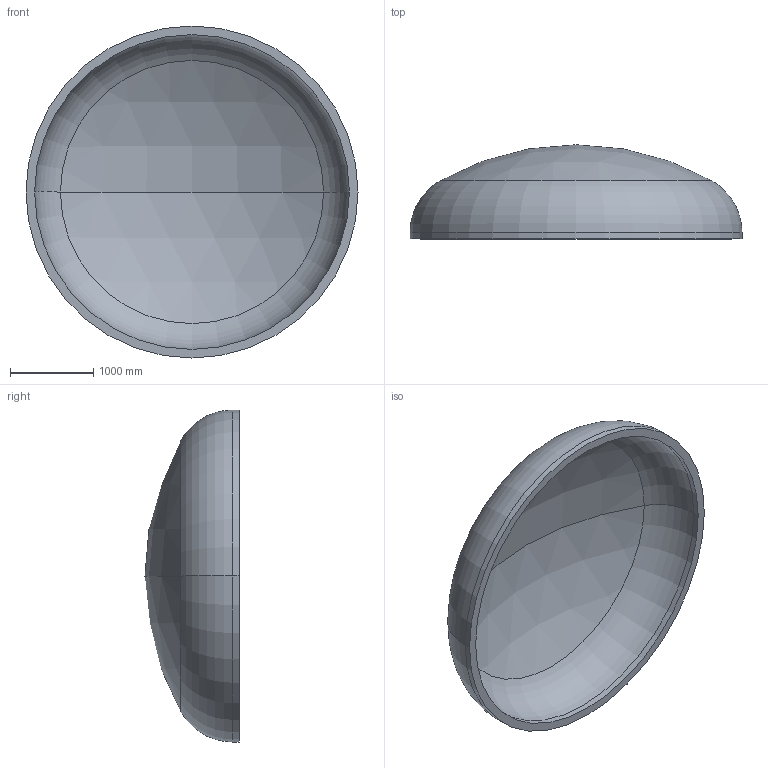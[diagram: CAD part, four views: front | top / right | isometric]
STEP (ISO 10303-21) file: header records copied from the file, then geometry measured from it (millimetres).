
FILE_DESCRIPTION (( 'STEP AP203' ), '1' );
FILE_NAME ('DIN 28013 Korbbogenform_-_Boden DIN 28013 - 4000 x 75 - I - s=104.step', '2016-07-01T22:50:03', ( '' ), ( '' ), 'SwSTEP 2.0', 'SolidWorks 2013', '' );
FILE_SCHEMA (( 'CONFIG_CONTROL_DESIGN' ));
Length unit declared in the file: millimetre
Products named in the file (1): DIN 28013 Korbbogenform_-_Boden DIN 28013 - 4000 x 75 - I - s=104
Bounding box: 4000 x 1133.72 x 4000 mm (x, y, z)
Volume: 1844303679.3 mm3; surface area: 36762942.1 mm2
Topology: 1 solids, 1 shells, 13 faces, 24 edges, 14 vertices
Faces by surface type: torus 4, cylinder 4, sphere 4, plane 1
Entity records: 407 total; most frequent: DIRECTION 72, CARTESIAN_POINT 52, ORIENTED_EDGE 48, AXIS2_PLACEMENT_3D 34, EDGE_CURVE 24, CIRCLE 20, EDGE_LOOP 14, VERTEX_POINT 14
